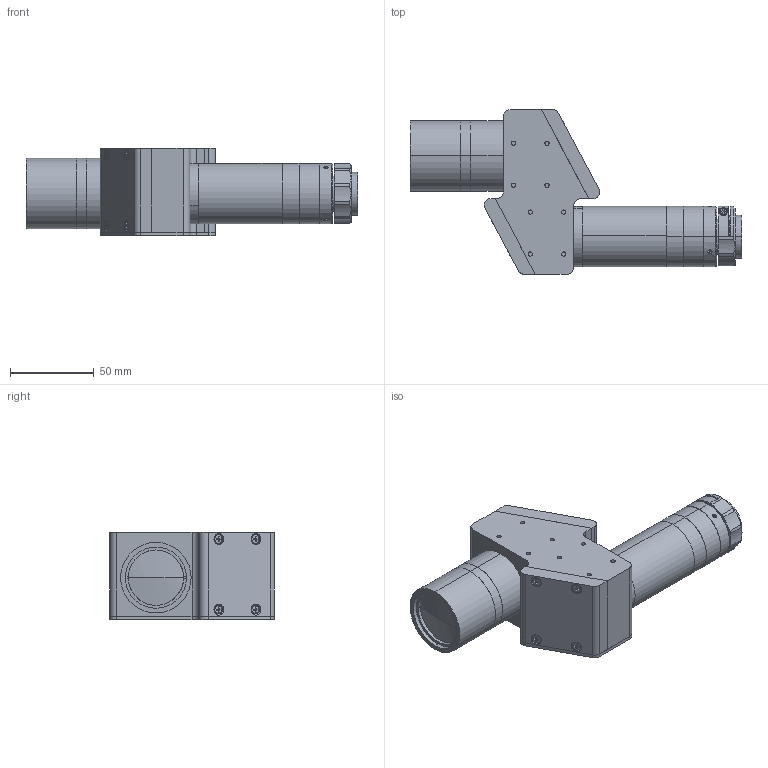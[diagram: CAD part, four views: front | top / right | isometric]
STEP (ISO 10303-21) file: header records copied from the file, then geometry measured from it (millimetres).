
FILE_DESCRIPTION (( 'STEP AP203' ), '1' );
FILE_NAME ('XF-MH065X375.STEP', '2020-08-24T07:16:36', ( 'canrill-02' ), ( '' ), 'SwSTEP 2.0', 'SolidWorks 2014', '' );
FILE_SCHEMA (( 'CONFIG_CONTROL_DESIGN' ));
Length unit declared in the file: millimetre
Products named in the file (1): XF-MH065X375
Bounding box: 197.47 x 98 x 52 mm (x, y, z)
Surface area: 49948.6 mm2 (no closed solid volume)
Topology: 0 solids, 34 shells, 407 faces, 1308 edges, 905 vertices
Faces by surface type: plane 207, cylinder 155, cone 41, sphere 2, torus 2
Entity records: 14712 total; most frequent: CARTESIAN_POINT 2940, DIRECTION 2562, ORIENTED_EDGE 2124, EDGE_CURVE 1306, VERTEX_POINT 905, AXIS2_PLACEMENT_3D 871, LINE 820, VECTOR 820
